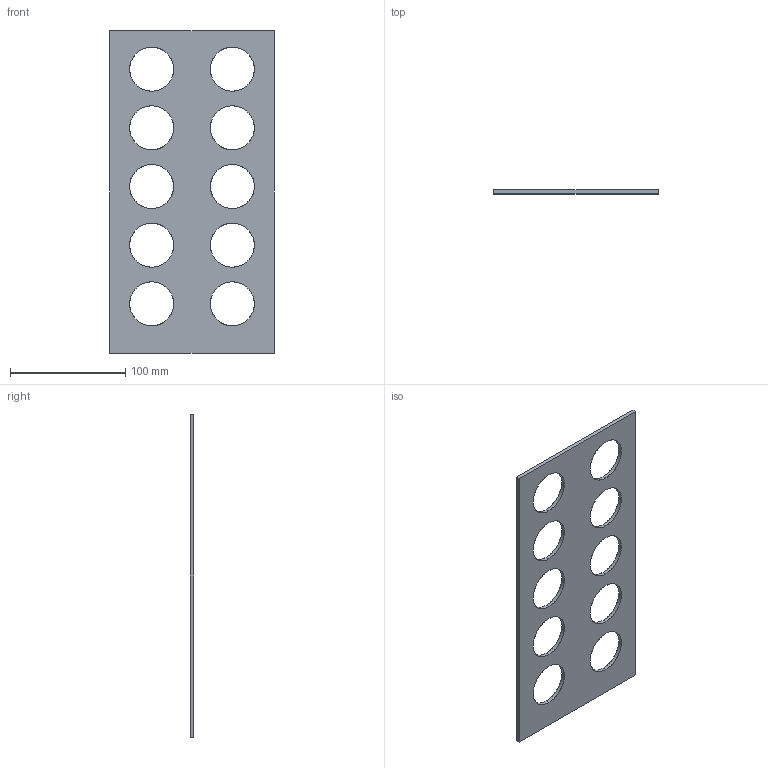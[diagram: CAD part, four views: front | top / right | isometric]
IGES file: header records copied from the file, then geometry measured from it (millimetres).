
Start section: SolidWorks IGES FILE using analytic representation for surfaces
Global section: file name: G:\Work In Progress\900252_ROV Marker Tool\900252-Release_Drawings\Nail Cover Plate.IGS; native system: SolidWorks 2003 by SolidWorks Corporation; preprocessor: Version 5.3; author: mob; date: 030129.110615; units: inch
Bounding box: 142.24 x 3.17 x 279.4 mm (x, y, z)
Surface area: 63159.3 mm2 (no closed solid volume)
Topology: 0 solids, 0 shells, 26 faces, 744 edges, 744 vertices
Faces by surface type: revolution 20, bspline 6
